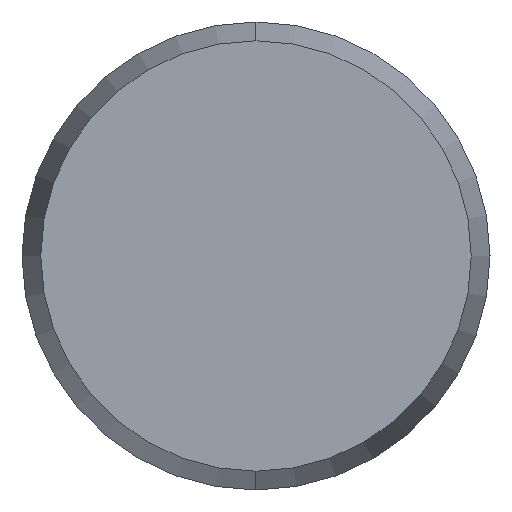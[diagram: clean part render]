
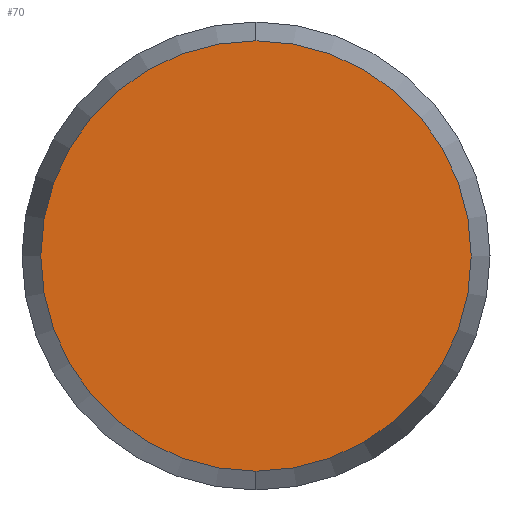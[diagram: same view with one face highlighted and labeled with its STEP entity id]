
A CAD part, left-side view. The second image highlights one B-rep face of the part: STEP entity #70.
In plain terms, the highlighted planar face has unit normal (-1, 0, 0).
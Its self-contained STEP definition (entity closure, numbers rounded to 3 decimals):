
#36 = EDGE_CURVE ( 'NONE', #37, #38, #174, .T. ) ;
#37 = VERTEX_POINT ( 'NONE', #169 ) ;
#38 = VERTEX_POINT ( 'NONE', #168 ) ;
#67 = EDGE_CURVE ( 'NONE', #38, #37, #150, .T. ) ;
#70 = ADVANCED_FACE ( 'NONE', ( #142 ), #141, .F. ) ;
#71 = EDGE_LOOP ( 'NONE', ( #84, #85 ) ) ;
#84 = ORIENTED_EDGE ( 'NONE', *, *, #36, .F. ) ;
#85 = ORIENTED_EDGE ( 'NONE', *, *, #67, .F. ) ;
#136 = DIRECTION ( 'NONE',  ( 0., 0., -1. ) ) ;
#137 = DIRECTION ( 'NONE',  ( 1., 0., 0. ) ) ;
#138 = CARTESIAN_POINT ( 'NONE',  ( -25., 0., 0. ) ) ;
#140 = AXIS2_PLACEMENT_3D ( 'NONE', #138, #137, #136 ) ;
#141 = PLANE ( 'NONE',  #140 ) ;
#142 = FACE_OUTER_BOUND ( 'NONE', #71, .T. ) ;
#143 = DIRECTION ( 'NONE',  ( 0., 0., -1. ) ) ;
#144 = DIRECTION ( 'NONE',  ( 1., 0., 0. ) ) ;
#145 = CARTESIAN_POINT ( 'NONE',  ( -25., 0., 0. ) ) ;
#146 = AXIS2_PLACEMENT_3D ( 'NONE', #145, #144, #143 ) ;
#150 = CIRCLE ( 'NONE', #146, 4.598 ) ;
#168 = CARTESIAN_POINT ( 'NONE',  ( -25., 0., -4.598 ) ) ;
#169 = CARTESIAN_POINT ( 'NONE',  ( -25., 0., 4.598 ) ) ;
#170 = DIRECTION ( 'NONE',  ( 0., 0., -1. ) ) ;
#171 = DIRECTION ( 'NONE',  ( 1., 0., 0. ) ) ;
#172 = CARTESIAN_POINT ( 'NONE',  ( -25., 0., 0. ) ) ;
#173 = AXIS2_PLACEMENT_3D ( 'NONE', #172, #171, #170 ) ;
#174 = CIRCLE ( 'NONE', #173, 4.598 ) ;
